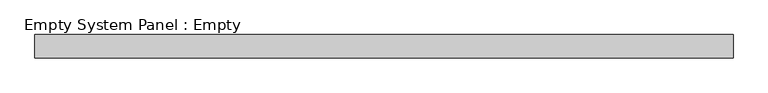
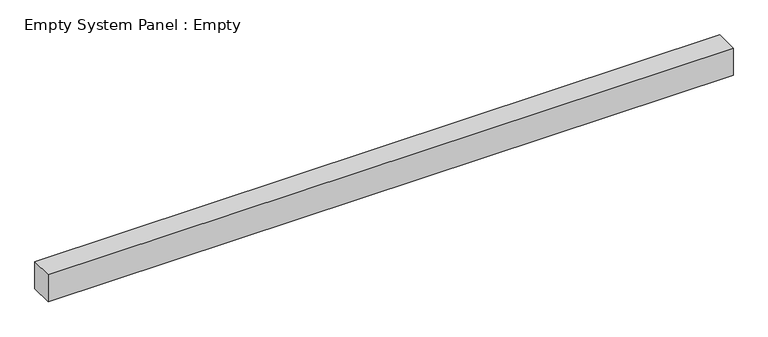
"""IFC4 building model written with IfcOpenShell, lengths in millimetres: plate geometry, Empty System Panel : Empty."""

import ifcopenshell
import ifcopenshell.guid

model = None  # the IFC model being written
_history = None  # IfcOwnerHistory: only IFC2X3 demands one
_inside = {}  # id of a spatial element -> (the spatial element, [elements in it])
_under = {}  # id of a project, library or spatial element -> (it, [spatial elements below it])
_declared = {}  # id of a project -> (the project, [libraries it declares])
_typed = {}  # id of a type object -> (the type object, [elements of that type])
_made_of = {}  # id of a material, layer set ... -> (it, [elements and type objects made of it])


def new_model(schema):
    """Start an empty IFC model of exactly this schema.

    Asked for "IFC4X3", IfcOpenShell would pick the latest addendum, in which some entities
    have other attributes; the version numbers below select the first issue.
    IFC2X3 requires an IfcOwnerHistory on every rooted entity: one is made here for all.
    """
    global model, _history
    if schema == "IFC4X3":
        model = ifcopenshell.file(schema_version=(4, 3, 0, 0))
    else:
        model = ifcopenshell.file(schema=schema)
    _inside.clear()
    _under.clear()
    _declared.clear()
    _typed.clear()
    _made_of.clear()
    _history = None
    if model.schema == "IFC2X3":
        org = make("IfcOrganization", Name="unknown")
        user = make(
            "IfcPersonAndOrganization",
            ThePerson=make("IfcPerson", FamilyName="unknown"),
            TheOrganization=org,
        )
        app = make(
            "IfcApplication",
            ApplicationDeveloper=org,
            Version="unknown",
            ApplicationFullName="unknown",
            ApplicationIdentifier="unknown",
        )
        _history = make(
            "IfcOwnerHistory",
            OwningUser=user,
            OwningApplication=app,
            ChangeAction="ADDED",
            CreationDate=0,
        )
    return model


def make(cls, **values):
    """One entity of the class cls with the attributes given. An attribute that is None is left unset."""
    return model.create_entity(
        cls, **{name: value for name, value in values.items() if value is not None}
    )


def rooted(cls, **values):
    """An entity with a GlobalId (a new one), such as an element, a storey or a relation."""
    return make(cls, GlobalId=ifcopenshell.guid.new(), OwnerHistory=_history, **values)


def si_unit(unit_type, name, prefix=None):
    """IfcSIUnit, for example si_unit("LENGTHUNIT", "METRE", prefix="MILLI")."""
    return make("IfcSIUnit", UnitType=unit_type, Prefix=prefix, Name=name)


def assignment(units):
    """IfcUnitAssignment: the units of a project."""
    return None if units is None else make("IfcUnitAssignment", Units=units)


def point(xyz):
    """IfcCartesianPoint."""
    return None if xyz is None else make("IfcCartesianPoint", Coordinates=xyz)


def direction(xyz):
    """IfcDirection."""
    return None if xyz is None else make("IfcDirection", DirectionRatios=xyz)


def frame(location, z_axis=None, x_axis=None):
    """IfcAxis2Placement3D, a coordinate frame: its origin and axes. An axis left out is left unset."""
    return make(
        "IfcAxis2Placement3D",
        Location=point(location),
        Axis=direction(z_axis),
        RefDirection=direction(x_axis),
    )


def origin():
    """The frame at (0, 0, 0) with its axes left unset."""
    return frame((0.0, 0.0, 0.0))


def origin_with_axes():
    """The frame at (0, 0, 0) with the z axis (0, 0, 1) and the x axis (1, 0, 0) written out."""
    return frame((0.0, 0.0, 0.0), z_axis=(0.0, 0.0, 1.0), x_axis=(1.0, 0.0, 0.0))


def place(relative_to, where):
    """IfcLocalPlacement: puts the frame where relative to a parent placement (None: the world)."""
    return make(
        "IfcLocalPlacement", PlacementRelTo=relative_to, RelativePlacement=where
    )


def context(
    kind, dimensions, precision=None, world=None, true_north=None, identifier=None
):
    """IfcGeometricRepresentationContext, for example the 3D "Model" context."""
    return make(
        "IfcGeometricRepresentationContext",
        ContextIdentifier=identifier,
        ContextType=kind,
        CoordinateSpaceDimension=dimensions,
        Precision=precision,
        WorldCoordinateSystem=world,
        TrueNorth=true_north,
    )


def project(units=None, contexts=None):
    """IfcProject with its units and contexts."""
    return rooted(
        "IfcProject",
        Name="project",
        RepresentationContexts=contexts,
        UnitsInContext=assignment(units),
    )


def spatial(cls, under=None, at=None, **own):
    """A site, building, storey or space (cls), placed at a placement, below another one or the project."""
    s = rooted(cls, ObjectPlacement=at, **own)
    if under is not None:
        _under.setdefault(under.id(), (under, []))[1].append(s)
    return s


def polyline(points):
    """IfcPolyline through the points."""
    return make("IfcPolyline", Points=[point(p) for p in points])


def outline(outer, holes=None, kind="AREA"):
    """IfcArbitraryClosedProfileDef: a profile drawn as a closed curve; with holes, ...WithVoids."""
    if holes is None:
        return make("IfcArbitraryClosedProfileDef", ProfileType=kind, OuterCurve=outer)
    return make(
        "IfcArbitraryProfileDefWithVoids",
        ProfileType=kind,
        OuterCurve=outer,
        InnerCurves=holes,
    )


def extrude(swept, where, along, depth):
    """IfcExtrudedAreaSolid: the profile swept, set in the frame where, extruded along a direction by depth."""
    return make(
        "IfcExtrudedAreaSolid",
        SweptArea=swept,
        Position=where,
        ExtrudedDirection=direction(along),
        Depth=depth,
    )


def shape(context_of_items, identifier, shape_type, items):
    """IfcShapeRepresentation: the items that make up one representation, for example the "Body"."""
    return make(
        "IfcShapeRepresentation",
        ContextOfItems=context_of_items,
        RepresentationIdentifier=identifier,
        RepresentationType=shape_type,
        Items=items,
    )


def source(mapping_origin, context_of_items, identifier, shape_type, items):
    """IfcRepresentationMap: a shape defined once, which mapped items show again and again."""
    return make(
        "IfcRepresentationMap",
        MappingOrigin=mapping_origin,
        MappedRepresentation=shape(context_of_items, identifier, shape_type, items),
    )


def transform(
    local_origin,
    x_axis=None,
    y_axis=None,
    z_axis=None,
    scale=None,
    scale2=None,
    scale3=None,
    uniform=True,
):
    """IfcCartesianTransformationOperator3D, or its non-uniform kind. x_axis, y_axis, z_axis: its Axis1, 2, 3."""
    if uniform:
        return make(
            "IfcCartesianTransformationOperator3D",
            Axis1=direction(x_axis),
            Axis2=direction(y_axis),
            LocalOrigin=point(local_origin),
            Scale=scale,
            Axis3=direction(z_axis),
        )
    return make(
        "IfcCartesianTransformationOperator3DnonUniform",
        Axis1=direction(x_axis),
        Axis2=direction(y_axis),
        LocalOrigin=point(local_origin),
        Scale=scale,
        Axis3=direction(z_axis),
        Scale2=scale2,
        Scale3=scale3,
    )


def mapped(mapping_source, mapping_target):
    """IfcMappedItem: shows the shape of a source again, moved by a transform."""
    return make(
        "IfcMappedItem", MappingSource=mapping_source, MappingTarget=mapping_target
    )


def made_of(thing, what):
    """Note that an element or type object is made of a material, layer set ...; save() writes the relation."""
    if what is not None:
        _made_of.setdefault(what.id(), (what, []))[1].append(thing)
    return thing


def element(
    cls,
    number,
    at=None,
    inside=None,
    cuts=None,
    type_object=None,
    material=None,
    context=None,
    identifier="Body",
    shape_type=None,
    held_by="IfcProductDefinitionShape",
    body=None,
    shapes=None,
    **own,
):
    """One element of the class cls, such as IfcWall. Its Tag is "e" and its number.

    at: its placement. inside: the storey or other place that contains it. cuts: it is an
    opening in that element (IfcRelVoidsElement). A single representation is given by context,
    identifier, shape_type and body (its items); several are given by shapes. held_by: the class
    of the entity that holds the representations. save() writes the other relations.
    """
    e = rooted(cls, Tag="e%d" % number, ObjectPlacement=at, **own)
    if body is not None:
        shapes = [shape(context, identifier, shape_type, body)]
    if shapes is not None:
        e.Representation = make(held_by, Representations=shapes)
    if inside is not None:
        _inside.setdefault(inside.id(), (inside, []))[1].append(e)
    if cuts is not None:
        rooted(
            "IfcRelVoidsElement", RelatingBuildingElement=cuts, RelatedOpeningElement=e
        )
    if type_object is not None:
        _typed.setdefault(type_object.id(), (type_object, []))[1].append(e)
    return made_of(e, material)


def aggregate(whole, parts):
    """IfcRelAggregates: a whole, such as a stair, and the parts it consists of."""
    return rooted("IfcRelAggregates", RelatingObject=whole, RelatedObjects=parts)


def save(model, path):
    """Write the relations noted so far, then the file.

    IfcRelAggregates (storeys below a building ...), IfcRelContainedInSpatialStructure (elements
    in a storey), IfcRelDefinesByType, IfcRelAssociatesMaterial and IfcRelDeclares: one each for
    every whole, place, type object, material and project.
    """
    for whole, parts in _under.values():
        aggregate(whole, parts)
    for where, things in _inside.values():
        rooted(
            "IfcRelContainedInSpatialStructure",
            RelatedElements=things,
            RelatingStructure=where,
        )
    for kind, things in _typed.values():
        rooted("IfcRelDefinesByType", RelatedObjects=things, RelatingType=kind)
    for what, things in _made_of.values():
        rooted("IfcRelAssociatesMaterial", RelatedObjects=things, RelatingMaterial=what)
    for by, libraries in _declared.values():
        rooted("IfcRelDeclares", RelatingContext=by, RelatedDefinitions=libraries)
    model.write(path)


def empty_system_panel_empty_4bef3949(model_context):
    return source(origin(), model_context, "Body", "SweptSolid", [
        extrude(outline(polyline([(1500.0, -50.0), (-1500.0, -50.0), (-1500.0, 50.0), (1500.0, 50.0), (1500.0, -50.0)])), origin_with_axes(), (0.0, 0.0, 1.0), 125.2512627),
    ])


if __name__ == "__main__":
    model = new_model("IFC4")
    model_context = context("Model", 3, world=origin())
    ifc_project = project(units=[si_unit("LENGTHUNIT", "METRE", prefix="MILLI")], contexts=[model_context])
    site = spatial("IfcSite", under=ifc_project)
    building = spatial("IfcBuilding", under=site)
    placement = place(None, origin())
    empty_system_panel_empty_shape = empty_system_panel_empty_4bef3949(model_context)
    element("IfcPlate", 1, ObjectType="Empty System Panel : Empty", at=placement, inside=building, context=model_context, shape_type="MappedRepresentation", body=[
        mapped(empty_system_panel_empty_shape, transform((0.0, 0.0, 0.0), x_axis=(1.0, 0.0, 0.0), y_axis=(0.0, 1.0, 0.0), z_axis=(0.0, 0.0, 1.0))),
    ])
    save(model, "model.ifc")
